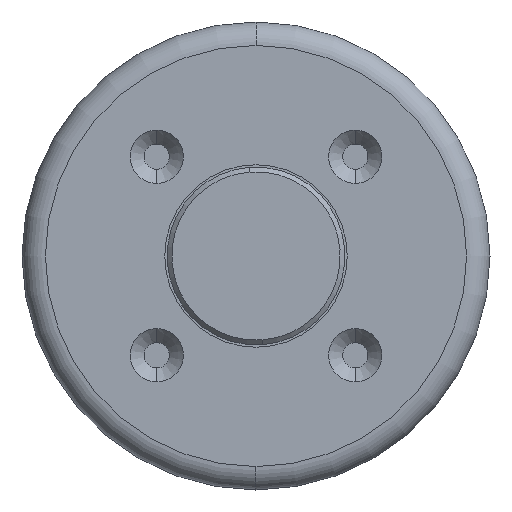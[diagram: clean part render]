
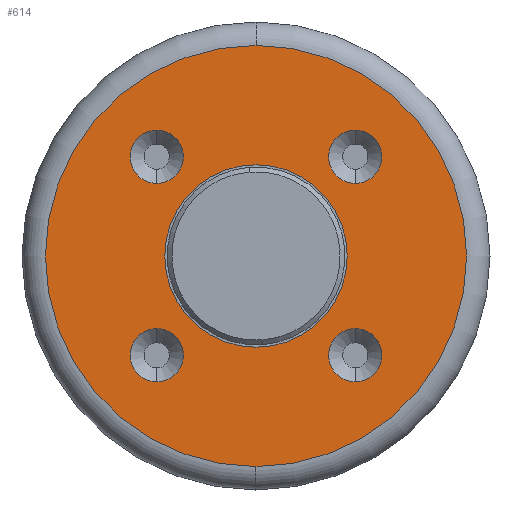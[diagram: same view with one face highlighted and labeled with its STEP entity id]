
A CAD part, left-side view. The second image highlights one B-rep face of the part: STEP entity #614.
In plain terms, the highlighted planar face has unit normal (-1, 0, 0).
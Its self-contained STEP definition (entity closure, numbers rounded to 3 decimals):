
#11 = CARTESIAN_POINT ( 'NONE',  ( -22.8, -10.607, 10.607 ) ) ;
#375 = AXIS2_PLACEMENT_3D ( 'NONE', #1025, #20889, #1134 ) ;
#614 = ADVANCED_FACE ( 'NONE', ( #28543, #22302, #9926, #12269, #4164, #15753 ), #8540, .T. ) ;
#630 = CARTESIAN_POINT ( 'NONE',  ( -22.8, 0., 0. ) ) ;
#678 = AXIS2_PLACEMENT_3D ( 'NONE', #4616, #14348, #2183 ) ;
#813 = VERTEX_POINT ( 'NONE', #16645 ) ;
#962 = DIRECTION ( 'NONE',  ( -1., 0., 0. ) ) ;
#1025 = CARTESIAN_POINT ( 'NONE',  ( -22.8, -10.607, -10.607 ) ) ;
#1134 = DIRECTION ( 'NONE',  ( 0., 0., -1. ) ) ;
#1317 = VERTEX_POINT ( 'NONE', #6448 ) ;
#1988 = EDGE_CURVE ( 'NONE', #14299, #12333, #13396, .T. ) ;
#2183 = DIRECTION ( 'NONE',  ( 0., 0., -1. ) ) ;
#2284 = CARTESIAN_POINT ( 'NONE',  ( -22.8, 0., -9.75 ) ) ;
#2378 = DIRECTION ( 'NONE',  ( 0., 0., -1. ) ) ;
#2777 = EDGE_CURVE ( 'NONE', #27138, #7545, #27677, .T. ) ;
#2920 = CIRCLE ( 'NONE', #6436, 22.5 ) ;
#3032 = VERTEX_POINT ( 'NONE', #4742 ) ;
#3353 = CARTESIAN_POINT ( 'NONE',  ( -22.8, -10.607, 10.607 ) ) ;
#3629 = CARTESIAN_POINT ( 'NONE',  ( -22.8, 0., 22.5 ) ) ;
#3670 = DIRECTION ( 'NONE',  ( 1., 0., 0. ) ) ;
#3864 = DIRECTION ( 'NONE',  ( 0., 0., -1. ) ) ;
#3929 = EDGE_CURVE ( 'NONE', #3032, #30422, #9487, .T. ) ;
#4164 = FACE_BOUND ( 'NONE', #19929, .T. ) ;
#4485 = ORIENTED_EDGE ( 'NONE', *, *, #23319, .T. ) ;
#4616 = CARTESIAN_POINT ( 'NONE',  ( -22.8, 10.607, -10.607 ) ) ;
#4742 = CARTESIAN_POINT ( 'NONE',  ( -22.8, 10.607, 13.457 ) ) ;
#5324 = DIRECTION ( 'NONE',  ( 0., 0., -1. ) ) ;
#5384 = ORIENTED_EDGE ( 'NONE', *, *, #13918, .T. ) ;
#5724 = ORIENTED_EDGE ( 'NONE', *, *, #28125, .T. ) ;
#5909 = EDGE_CURVE ( 'NONE', #15700, #27785, #26425, .T. ) ;
#6141 = ORIENTED_EDGE ( 'NONE', *, *, #16809, .T. ) ;
#6436 = AXIS2_PLACEMENT_3D ( 'NONE', #19160, #21315, #21201 ) ;
#6448 = CARTESIAN_POINT ( 'NONE',  ( -22.8, 10.607, -7.757 ) ) ;
#6900 = AXIS2_PLACEMENT_3D ( 'NONE', #11, #24260, #2378 ) ;
#7083 = CIRCLE ( 'NONE', #9819, 2.85 ) ;
#7117 = CARTESIAN_POINT ( 'NONE',  ( -22.8, 10.607, 7.757 ) ) ;
#7499 = DIRECTION ( 'NONE',  ( 0., 0., -1. ) ) ;
#7545 = VERTEX_POINT ( 'NONE', #14670 ) ;
#7557 = EDGE_CURVE ( 'NONE', #1317, #30020, #17467, .T. ) ;
#8540 = PLANE ( 'NONE',  #26966 ) ;
#9092 = ORIENTED_EDGE ( 'NONE', *, *, #5909, .T. ) ;
#9487 = CIRCLE ( 'NONE', #14803, 2.85 ) ;
#9819 = AXIS2_PLACEMENT_3D ( 'NONE', #3353, #20569, #28073 ) ;
#9926 = FACE_BOUND ( 'NONE', #28877, .T. ) ;
#9964 = CARTESIAN_POINT ( 'NONE',  ( -22.8, 0., 0. ) ) ;
#10564 = DIRECTION ( 'NONE',  ( -1., 0., 0. ) ) ;
#10682 = CARTESIAN_POINT ( 'NONE',  ( -22.8, -9.75, 0. ) ) ;
#11231 = CARTESIAN_POINT ( 'NONE',  ( -22.8, -10.607, -7.757 ) ) ;
#11475 = EDGE_CURVE ( 'NONE', #30020, #1317, #29516, .T. ) ;
#11838 = DIRECTION ( 'NONE',  ( 0., 0., -1. ) ) ;
#12269 = FACE_BOUND ( 'NONE', #27633, .T. ) ;
#12333 = VERTEX_POINT ( 'NONE', #24971 ) ;
#13396 = CIRCLE ( 'NONE', #6900, 2.85 ) ;
#13918 = EDGE_CURVE ( 'NONE', #12333, #14299, #7083, .T. ) ;
#14299 = VERTEX_POINT ( 'NONE', #17440 ) ;
#14348 = DIRECTION ( 'NONE',  ( 1., 0., 0. ) ) ;
#14670 = CARTESIAN_POINT ( 'NONE',  ( -22.8, 0., 9.75 ) ) ;
#14774 = CIRCLE ( 'NONE', #28300, 9.75 ) ;
#14803 = AXIS2_PLACEMENT_3D ( 'NONE', #31742, #19094, #24084 ) ;
#15217 = ORIENTED_EDGE ( 'NONE', *, *, #7557, .T. ) ;
#15303 = ORIENTED_EDGE ( 'NONE', *, *, #3929, .T. ) ;
#15395 = AXIS2_PLACEMENT_3D ( 'NONE', #26647, #26331, #11838 ) ;
#15700 = VERTEX_POINT ( 'NONE', #25045 ) ;
#15753 = FACE_BOUND ( 'NONE', #19489, .T. ) ;
#15998 = EDGE_LOOP ( 'NONE', ( #5384, #31903 ) ) ;
#16359 = DIRECTION ( 'NONE',  ( 0., 0., -1. ) ) ;
#16645 = CARTESIAN_POINT ( 'NONE',  ( -22.8, 0., -22.5 ) ) ;
#16809 = EDGE_CURVE ( 'NONE', #813, #29720, #21631, .T. ) ;
#17440 = CARTESIAN_POINT ( 'NONE',  ( -22.8, -10.607, 13.457 ) ) ;
#17467 = CIRCLE ( 'NONE', #678, 2.85 ) ;
#18179 = DIRECTION ( 'NONE',  ( 0., 0., -1. ) ) ;
#19094 = DIRECTION ( 'NONE',  ( 1., 0., 0. ) ) ;
#19160 = CARTESIAN_POINT ( 'NONE',  ( -22.8, 0., 0. ) ) ;
#19489 = EDGE_LOOP ( 'NONE', ( #19654, #24015 ) ) ;
#19654 = ORIENTED_EDGE ( 'NONE', *, *, #2777, .F. ) ;
#19929 = EDGE_LOOP ( 'NONE', ( #4485, #15303 ) ) ;
#20569 = DIRECTION ( 'NONE',  ( 1., 0., 0. ) ) ;
#20889 = DIRECTION ( 'NONE',  ( 1., 0., 0. ) ) ;
#21201 = DIRECTION ( 'NONE',  ( 0., 0., -1. ) ) ;
#21315 = DIRECTION ( 'NONE',  ( -1., 0., 0. ) ) ;
#21631 = CIRCLE ( 'NONE', #30812, 22.5 ) ;
#21796 = AXIS2_PLACEMENT_3D ( 'NONE', #31133, #31031, #16359 ) ;
#21820 = EDGE_CURVE ( 'NONE', #29720, #813, #2920, .T. ) ;
#22302 = FACE_BOUND ( 'NONE', #15998, .T. ) ;
#22777 = DIRECTION ( 'NONE',  ( 0., 0., -1. ) ) ;
#23319 = EDGE_CURVE ( 'NONE', #30422, #3032, #26364, .T. ) ;
#24015 = ORIENTED_EDGE ( 'NONE', *, *, #29589, .F. ) ;
#24084 = DIRECTION ( 'NONE',  ( 0., 0., -1. ) ) ;
#24260 = DIRECTION ( 'NONE',  ( 1., 0., 0. ) ) ;
#24963 = DIRECTION ( 'NONE',  ( -1., 0., 0. ) ) ;
#24971 = CARTESIAN_POINT ( 'NONE',  ( -22.8, -10.607, 7.757 ) ) ;
#25045 = CARTESIAN_POINT ( 'NONE',  ( -22.8, -10.607, -13.457 ) ) ;
#25102 = DIRECTION ( 'NONE',  ( -1., 0., 0. ) ) ;
#25886 = CARTESIAN_POINT ( 'NONE',  ( -22.8, -10.607, -10.607 ) ) ;
#26331 = DIRECTION ( 'NONE',  ( 1., 0., 0. ) ) ;
#26364 = CIRCLE ( 'NONE', #21796, 2.85 ) ;
#26425 = CIRCLE ( 'NONE', #31657, 2.85 ) ;
#26647 = CARTESIAN_POINT ( 'NONE',  ( -22.8, 10.607, -10.607 ) ) ;
#26966 = AXIS2_PLACEMENT_3D ( 'NONE', #10682, #962, #18179 ) ;
#27138 = VERTEX_POINT ( 'NONE', #2284 ) ;
#27633 = EDGE_LOOP ( 'NONE', ( #9092, #5724 ) ) ;
#27677 = CIRCLE ( 'NONE', #28882, 9.75 ) ;
#27785 = VERTEX_POINT ( 'NONE', #11231 ) ;
#27791 = CARTESIAN_POINT ( 'NONE',  ( -22.8, 0., 0. ) ) ;
#27916 = CARTESIAN_POINT ( 'NONE',  ( -22.8, 10.607, -13.457 ) ) ;
#28073 = DIRECTION ( 'NONE',  ( 0., 0., -1. ) ) ;
#28125 = EDGE_CURVE ( 'NONE', #27785, #15700, #30219, .T. ) ;
#28300 = AXIS2_PLACEMENT_3D ( 'NONE', #9964, #25102, #7499 ) ;
#28543 = FACE_OUTER_BOUND ( 'NONE', #31132, .T. ) ;
#28877 = EDGE_LOOP ( 'NONE', ( #30420, #15217 ) ) ;
#28882 = AXIS2_PLACEMENT_3D ( 'NONE', #27791, #10564, #22777 ) ;
#29516 = CIRCLE ( 'NONE', #15395, 2.85 ) ;
#29589 = EDGE_CURVE ( 'NONE', #7545, #27138, #14774, .T. ) ;
#29720 = VERTEX_POINT ( 'NONE', #3629 ) ;
#30020 = VERTEX_POINT ( 'NONE', #27916 ) ;
#30219 = CIRCLE ( 'NONE', #375, 2.85 ) ;
#30420 = ORIENTED_EDGE ( 'NONE', *, *, #11475, .T. ) ;
#30422 = VERTEX_POINT ( 'NONE', #7117 ) ;
#30812 = AXIS2_PLACEMENT_3D ( 'NONE', #630, #24963, #5324 ) ;
#31031 = DIRECTION ( 'NONE',  ( 1., 0., 0. ) ) ;
#31132 = EDGE_LOOP ( 'NONE', ( #6141, #31609 ) ) ;
#31133 = CARTESIAN_POINT ( 'NONE',  ( -22.8, 10.607, 10.607 ) ) ;
#31609 = ORIENTED_EDGE ( 'NONE', *, *, #21820, .T. ) ;
#31657 = AXIS2_PLACEMENT_3D ( 'NONE', #25886, #3670, #3864 ) ;
#31742 = CARTESIAN_POINT ( 'NONE',  ( -22.8, 10.607, 10.607 ) ) ;
#31903 = ORIENTED_EDGE ( 'NONE', *, *, #1988, .T. ) ;
